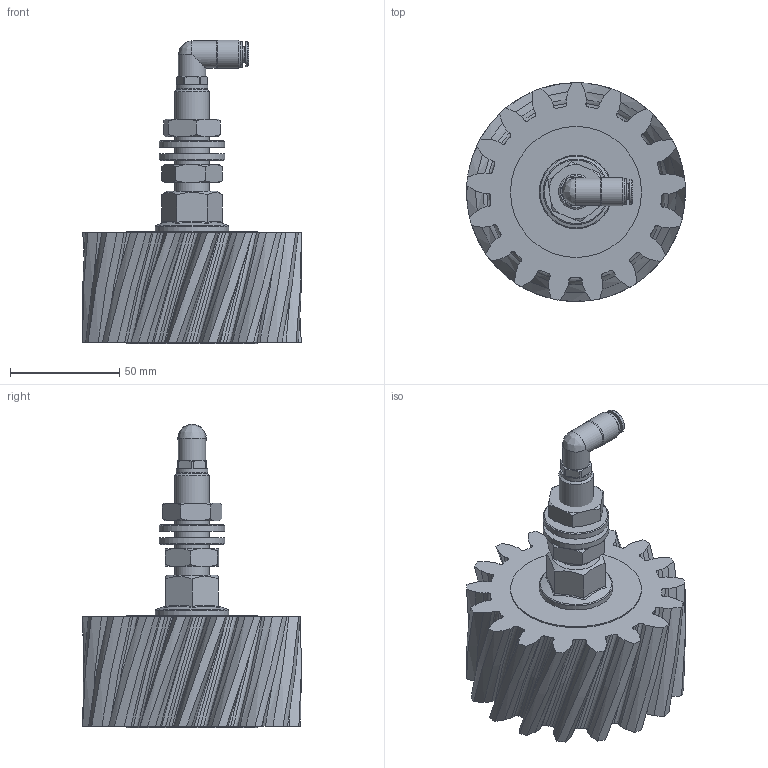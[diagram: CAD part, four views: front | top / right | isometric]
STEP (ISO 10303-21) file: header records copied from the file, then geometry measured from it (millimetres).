
FILE_DESCRIPTION (( 'STEP AP214' ), '1' );
FILE_NAME ('012_13_05_50_17ARZ.STEP', '2026-04-14T12:39:35', ( '' ), ( '' ), 'SwSTEP 2.0', 'SolidWorks 2022', '' );
FILE_SCHEMA (( 'AUTOMOTIVE_DESIGN' ));
Length unit declared in the file: millimetre
Products named in the file (12): RH202242; 012_06_02_Scheibe-groß.SLDASM; RIVOLUZIONE_0_2; DR6-C_HDX_25.07.16_1; Modul_5_S_R; 012_13_05_50_17ARZ; H202242_HDS022_6_M10X1_08.05.17(1); Mutter_M16; Achse_M16_Schmierzahnrad; Senkkopfschraube_M6; OR 7.2X1.9_1; Scheibe_M16
Assembly tree (13 placements, depth 3):
  012_13_05_50_17ARZ
    Achse_M16_Schmierzahnrad
    012_06_02_Scheibe-groß.SLDASM
    Senkkopfschraube_M6
    Mutter_M16  x2
    Scheibe_M16  x2
    H202242_HDS022_6_M10X1_08.05.17(1)
      OR 7.2X1.9_1
      RH202242
      DR6-C_HDX_25.07.16_1
      RIVOLUZIONE_0_2
    Modul_5_S_R
Bounding box: 100.08 x 100.16 x 139 mm (x, y, z)
Volume: 348215.5 mm3; surface area: 68143 mm2
Topology: 12 solids, 12 shells, 709 faces, 1909 edges, 1262 vertices
Faces by surface type: plane 328, bspline 261, cone 62, cylinder 55, torus 3
Full cylindrical faces by diameter (mm): 4 x2, 5 x1, 6 x1, 6.2 x1, 6.3 x1, 7.2 x1, 8.5 x1, 8.92 x2, 9 x2, 9.9 x1, 10 x2, 10.1 x2, 10.3 x1, 11.5 x1, 11.7 x1, 12.5 x2, 13 x1, 14 x2, 14.5 x1, 16 x1, 17 x2, 30 x2, 33.6 x1, 60 x2
Entity records: 58802 total; most frequent: CARTESIAN_POINT 42556, ORIENTED_EDGE 3458, DIRECTION 2264, EDGE_CURVE 1729, VERTEX_POINT 1179, VECTOR 1072, LINE 1072, EDGE_LOOP 802
